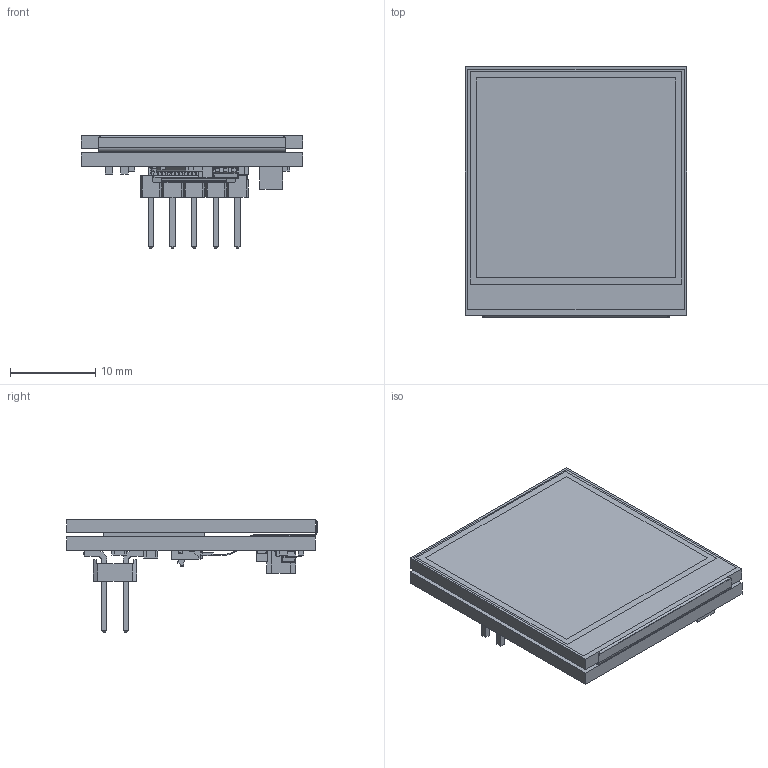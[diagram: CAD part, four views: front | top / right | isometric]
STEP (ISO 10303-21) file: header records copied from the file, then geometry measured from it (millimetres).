
FILE_DESCRIPTION (( 'STEP AP214' ), '1' );
FILE_NAME ('CFAF240240A4-013TN-E1.STEP', '2025-07-24T20:21:32', ( '' ), ( '' ), 'SwSTEP 2.0', 'SolidWorks 2021', '' );
FILE_SCHEMA (( 'AUTOMOTIVE_DESIGN' ));
Length unit declared in the file: millimetre
Products named in the file (18): 00296_CAM_00296_SCH-1; 00289_CAM_00289_SCH-1; CFAF240240A4-013TN-E1; CFAF240240A4-013TN; 16120_CAM_16120_SCH-1; 01655_CAM_01655_SCH-1; 16144_CAM_CMP-004-00032-2; CS050Z18G-A0_CAM_CS050Z18G-A0-1; 00133_CAM_00133_SCH-15; 16110_CAM_00191_SCH-1; 15031_CAM_15031_SCH-1; 16110_CAM_00580_SCH-1; 15032_CAM_15032_SCH-1; 16118_CAM_16118_SCH-1; VHB Tape 4905 CFAPN01881; cfa_10107_BOARD; cfa_10107; ERJ2R_Family_CAM_CMP-005-000010-1
Assembly tree (17 placements, depth 3):
  CFAF240240A4-013TN-E1
    CFAF240240A4-013TN
    cfa_10107
      cfa_10107_BOARD
      ERJ2R_Family_CAM_CMP-005-000010-1
      16144_CAM_CMP-004-00032-2
      00296_CAM_00296_SCH-1
      16110_CAM_00580_SCH-1
      16110_CAM_00191_SCH-1
      00133_CAM_00133_SCH-15
      00289_CAM_00289_SCH-1
      CS050Z18G-A0_CAM_CS050Z18G-A0-1
      16118_CAM_16118_SCH-1
      16120_CAM_16120_SCH-1
      01655_CAM_01655_SCH-1
      15032_CAM_15032_SCH-1
      15031_CAM_15031_SCH-1
    VHB Tape 4905 CFAPN01881
Bounding box: 26 x 29.38 x 13.22 mm (x, y, z)
Volume: 2647.5 mm3; surface area: 5238.9 mm2
Topology: 54 solids, 54 shells, 2048 faces, 5754 edges, 3744 vertices
Faces by surface type: plane 1675, cylinder 347, bspline 18, sphere 8
Entity records: 71064 total; most frequent: CARTESIAN_POINT 14830, ORIENTED_EDGE 11508, DIRECTION 9987, EDGE_CURVE 5754, LINE 4569, VECTOR 4569, VERTEX_POINT 3744, AXIS2_PLACEMENT_3D 2709
